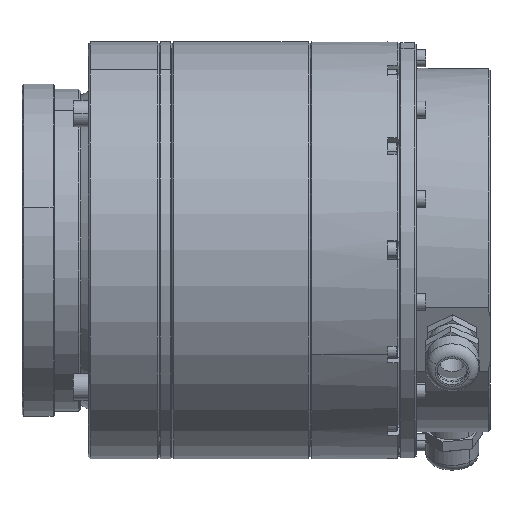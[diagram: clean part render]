
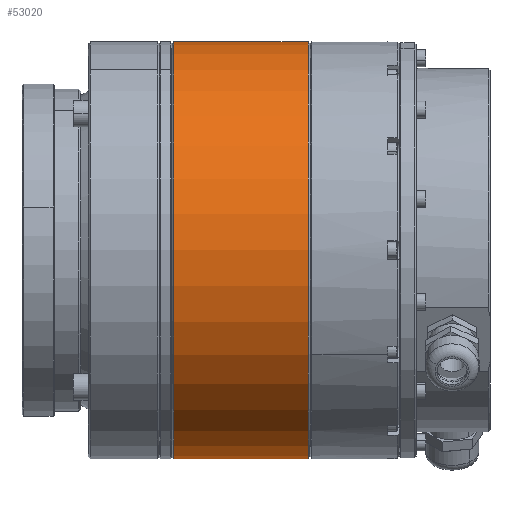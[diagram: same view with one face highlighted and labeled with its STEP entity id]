
A CAD part, front view. The second image highlights one B-rep face of the part: STEP entity #53020.
In plain terms, the highlighted cylindrical face has radius 55 mm (diameter 110 mm), a partial arc.
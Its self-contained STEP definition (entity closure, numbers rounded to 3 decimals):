
#133 = CIRCLE ( 'NONE', #41567, 55. ) ;
#956 = CARTESIAN_POINT ( 'NONE',  ( 38., 0., 0. ) ) ;
#1132 = LINE ( 'NONE', #34125, #61077 ) ;
#1811 = CIRCLE ( 'NONE', #12467, 55. ) ;
#3282 = ORIENTED_EDGE ( 'NONE', *, *, #24513, .T. ) ;
#6005 = EDGE_CURVE ( 'NONE', #31640, #42033, #1132, .T. ) ;
#7738 = FACE_OUTER_BOUND ( 'NONE', #20187, .T. ) ;
#9340 = CARTESIAN_POINT ( 'NONE',  ( 38., 0., 55. ) ) ;
#10941 = DIRECTION ( 'NONE',  ( 1., 0., 0. ) ) ;
#11379 = CARTESIAN_POINT ( 'NONE',  ( 2.5, 0., 55. ) ) ;
#11574 = VECTOR ( 'NONE', #15712, 1000. ) ;
#12467 = AXIS2_PLACEMENT_3D ( 'NONE', #56852, #10941, #51322 ) ;
#13136 = VERTEX_POINT ( 'NONE', #39865 ) ;
#14032 = DIRECTION ( 'NONE',  ( 0., 0., 1. ) ) ;
#15712 = DIRECTION ( 'NONE',  ( -1., 0., 0. ) ) ;
#19258 = DIRECTION ( 'NONE',  ( -1., 0., 0. ) ) ;
#20187 = EDGE_LOOP ( 'NONE', ( #67584, #3282, #68938, #64517 ) ) ;
#23203 = DIRECTION ( 'NONE',  ( 0., 0., -1. ) ) ;
#24513 = EDGE_CURVE ( 'NONE', #13136, #31640, #133, .T. ) ;
#29317 = DIRECTION ( 'NONE',  ( -1., 0., 0. ) ) ;
#31640 = VERTEX_POINT ( 'NONE', #9340 ) ;
#32264 = EDGE_CURVE ( 'NONE', #42033, #64496, #1811, .T. ) ;
#34125 = CARTESIAN_POINT ( 'NONE',  ( 38.5, 0., 55. ) ) ;
#36990 = CARTESIAN_POINT ( 'NONE',  ( 38.5, 0., 0. ) ) ;
#39865 = CARTESIAN_POINT ( 'NONE',  ( 38., 0., -55. ) ) ;
#41567 = AXIS2_PLACEMENT_3D ( 'NONE', #956, #56535, #23203 ) ;
#42033 = VERTEX_POINT ( 'NONE', #11379 ) ;
#44203 = LINE ( 'NONE', #54605, #11574 ) ;
#51322 = DIRECTION ( 'NONE',  ( 0., 0., 1. ) ) ;
#53020 = ADVANCED_FACE ( 'NONE', ( #7738 ), #69942, .T. ) ;
#54605 = CARTESIAN_POINT ( 'NONE',  ( 38.5, 0., -55. ) ) ;
#55790 = AXIS2_PLACEMENT_3D ( 'NONE', #36990, #19258, #14032 ) ;
#56535 = DIRECTION ( 'NONE',  ( -1., 0., 0. ) ) ;
#56852 = CARTESIAN_POINT ( 'NONE',  ( 2.5, 0., 0. ) ) ;
#61077 = VECTOR ( 'NONE', #29317, 1000. ) ;
#64496 = VERTEX_POINT ( 'NONE', #69538 ) ;
#64517 = ORIENTED_EDGE ( 'NONE', *, *, #32264, .T. ) ;
#67584 = ORIENTED_EDGE ( 'NONE', *, *, #72678, .F. ) ;
#68938 = ORIENTED_EDGE ( 'NONE', *, *, #6005, .T. ) ;
#69538 = CARTESIAN_POINT ( 'NONE',  ( 2.5, 0., -55. ) ) ;
#69942 = CYLINDRICAL_SURFACE ( 'NONE', #55790, 55. ) ;
#72678 = EDGE_CURVE ( 'NONE', #13136, #64496, #44203, .T. ) ;
